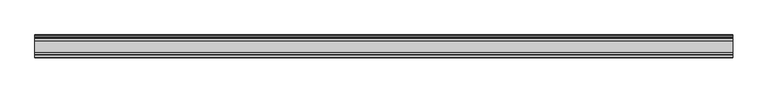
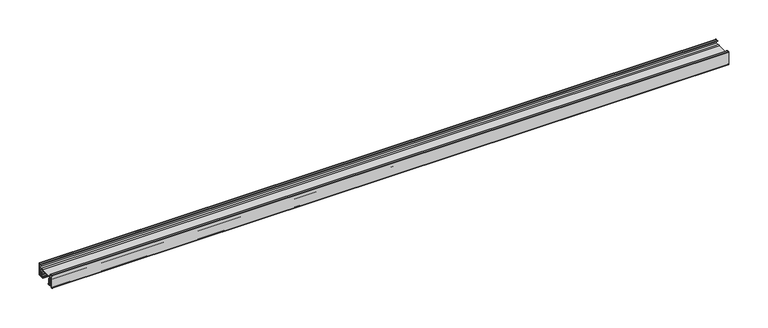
"""IFC4 building model written with IfcOpenShell, lengths in millimetres: light fixture geometry, GENILED_Осветительный шинопровод : Шинопровод однофазный 1000 Белый."""

from ifc_helpers import new_model, si_unit, point, frame, frame_2d, origin, place, context, project, spatial, polyline, circle_curve, trimmed, segment, composite_curve, outline, extrude, source, transform, mapped, element, save


def light_fixture_0315b49b(model_context):
    return source(origin(), model_context, "Body", "SweptSolid", [
        extrude(outline(composite_curve([segment(trimmed(circle_curve(frame_2d((-12.875, -0.825)), 0.325), [point((-12.875, -0.5))], [point((-12.875, -1.15))], False, "CARTESIAN"), True, "CONTINUOUS"), segment(polyline([(-12.875, -1.15), (-15.85, -1.15), (-15.85, -5.8), (-11.3843464, -5.8)]), True, "CONTINUOUS"), segment(trimmed(circle_curve(frame_2d((-9.85, -6.5319708)), 1.7), [point((-11.3843464, -5.8))], [point((-8.3156536, -5.8))], False, "CARTESIAN"), True, "CONTINUOUS"), segment(polyline([(-8.3156536, -5.8), (8.3156536, -5.8)]), True, "CONTINUOUS"), segment(trimmed(circle_curve(frame_2d((9.85, -6.5319708)), 1.7), [point((8.3156536, -5.8))], [point((11.3843464, -5.8))], False, "CARTESIAN"), True, "CONTINUOUS"), segment(polyline([(11.3843464, -5.8), (15.85, -5.8), (15.85, -1.15), (12.875, -1.15)]), True, "CONTINUOUS"), segment(trimmed(circle_curve(frame_2d((12.875, -0.825)), 0.325), [point((12.875, -1.15))], [point((12.875, -0.5))], False, "CARTESIAN"), True, "CONTINUOUS"), segment(polyline([(12.875, -0.5), (15.85, -0.5), (15.85, -0.325)]), True, "CONTINUOUS"), segment(trimmed(circle_curve(frame_2d((16.175, -0.325)), 0.325), [point((15.85, -0.325))], [point((16.5, -0.325))], False, "CARTESIAN"), True, "CONTINUOUS"), segment(polyline([(16.5, -0.325), (16.5, -19.0), (7.6, -19.0), (7.6, -17.525)]), True, "CONTINUOUS"), segment(trimmed(circle_curve(frame_2d((7.925, -17.525)), 0.325), [point((7.6, -17.525))], [point((8.25, -17.525))], False, "CARTESIAN"), True, "CONTINUOUS"), segment(polyline([(8.25, -17.525), (8.25, -18.35), (13.2, -18.35), (13.2, -16.425)]), True, "CONTINUOUS"), segment(trimmed(circle_curve(frame_2d((13.525, -16.425)), 0.325), [point((13.2, -16.425))], [point((13.85, -16.425))], False, "CARTESIAN"), True, "CONTINUOUS"), segment(polyline([(13.85, -16.425), (13.85, -18.35), (15.85, -18.35), (15.85, -6.55), (13.85, -6.55), (13.85, -8.175)]), True, "CONTINUOUS"), segment(trimmed(circle_curve(frame_2d((13.525, -8.175)), 0.325), [point((13.85, -8.175))], [point((13.2, -8.175))], False, "CARTESIAN"), True, "CONTINUOUS"), segment(polyline([(13.2, -8.175), (13.2, -6.55), (-13.2, -6.55), (-13.2, -8.175)]), True, "CONTINUOUS"), segment(trimmed(circle_curve(frame_2d((-13.525, -8.175)), 0.325), [point((-13.2, -8.175))], [point((-13.85, -8.175))], False, "CARTESIAN"), True, "CONTINUOUS"), segment(polyline([(-13.85, -8.175), (-13.85, -6.55), (-15.85, -6.55), (-15.85, -18.35), (-13.85, -18.35), (-13.85, -16.425)]), True, "CONTINUOUS"), segment(trimmed(circle_curve(frame_2d((-13.525, -16.425)), 0.325), [point((-13.85, -16.425))], [point((-13.2, -16.425))], False, "CARTESIAN"), True, "CONTINUOUS"), segment(polyline([(-13.2, -16.425), (-13.2, -18.35), (-8.0, -18.35), (-8.0, -17.525)]), True, "CONTINUOUS"), segment(trimmed(circle_curve(frame_2d((-7.675, -17.525)), 0.325), [point((-8.0, -17.525))], [point((-7.35, -17.525))], False, "CARTESIAN"), True, "CONTINUOUS"), segment(polyline([(-7.35, -17.525), (-7.35, -19.0), (-14.0, -19.0), (-14.0, -20.2), (-15.5, -20.2)]), True, "CONTINUOUS"), segment(trimmed(circle_curve(frame_2d((-15.5, -19.2)), 1.0), [point((-15.5, -20.2))], [point((-16.5, -19.2))], False, "CARTESIAN"), True, "CONTINUOUS"), segment(polyline([(-16.5, -19.2), (-16.5, -0.325)]), True, "CONTINUOUS"), segment(trimmed(circle_curve(frame_2d((-16.175, -0.325)), 0.325), [point((-16.5, -0.325))], [point((-15.85, -0.325))], False, "CARTESIAN"), True, "CONTINUOUS"), segment(polyline([(-15.85, -0.325), (-15.85, -0.5), (-12.875, -0.5)]), True, "CONTINUOUS")], self_intersect=False)), frame((0.0, 0.0, 0.0), z_axis=(1.0, 0.0, 0.0), x_axis=(0.0, 1.0, 0.0)), (0.0, 0.0, 1.0), 1000.0),
        extrude(outline(polyline([(1000.0, 9.7301861), (1000.0, 8.9301861), (0.0, 8.9301861), (0.0, 9.7301861), (1000.0, 9.7301861)])), frame((0.0, 0.0, -14.1890619), z_axis=(0.0, 0.0, 1.0), x_axis=(1.0, 0.0, 0.0)), (0.0, 0.0, 1.0), 3.2),
        extrude(outline(polyline([(1000.0, -8.9301861), (1000.0, -9.7301861), (0.0, -9.7301861), (0.0, -8.9301861), (1000.0, -8.9301861)])), frame((0.0, 0.0, -14.1890619), z_axis=(0.0, 0.0, 1.0), x_axis=(1.0, 0.0, 0.0)), (0.0, 0.0, 1.0), 3.2),
        extrude(outline(polyline([(7.8801861, -9.6390619), (14.6301861, -9.6390619), (14.6301861, -7.1890619), (15.8301861, -7.1890619), (15.8301861, -10.9390619), (11.2801861, -10.9390619), (11.2801861, -14.2390619), (15.8301861, -14.2390619), (15.8301861, -17.9890619), (14.6301861, -17.9890619), (14.6301861, -15.5390619), (7.8801861, -15.5390619), (7.8801861, -13.4390619), (8.9801861, -13.4390619), (8.9801861, -14.3890619), (9.9801861, -14.3890619), (9.9801861, -10.7890619), (8.9801861, -10.7890619), (8.9801861, -11.7390619), (7.8801861, -11.7390619), (7.8801861, -9.6390619)])), frame((0.0, 0.0, 0.0), z_axis=(1.0, 0.0, 0.0), x_axis=(0.0, 1.0, 0.0)), (0.0, 0.0, 1.0), 1000.0),
        extrude(outline(polyline([(-7.6301861, -9.6390619), (-7.6301861, -11.7390619), (-8.7301861, -11.7390619), (-8.7301861, -10.7890619), (-9.7301861, -10.7890619), (-9.7301861, -14.3890619), (-8.7301861, -14.3890619), (-8.7301861, -13.4390619), (-7.6301861, -13.4390619), (-7.6301861, -15.5390619), (-14.6301861, -15.5390619), (-14.6301861, -17.9890619), (-15.8301861, -17.9890619), (-15.8301861, -14.2390619), (-11.0301861, -14.2390619), (-11.0301861, -10.9390619), (-15.8301861, -10.9390619), (-15.8301861, -7.1890619), (-14.6301861, -7.1890619), (-14.6301861, -9.6390619), (-7.6301861, -9.6390619)])), frame((0.0, 0.0, 0.0), z_axis=(1.0, 0.0, 0.0), x_axis=(0.0, 1.0, 0.0)), (0.0, 0.0, 1.0), 1000.0),
    ])


if __name__ == "__main__":
    model = new_model("IFC4")
    model_context = context("Model", 3, world=origin())
    ifc_project = project(units=[si_unit("LENGTHUNIT", "METRE", prefix="MILLI")], contexts=[model_context])
    site = spatial("IfcSite", under=ifc_project)
    building = spatial("IfcBuilding", under=site)
    placement = place(None, origin())
    light_fixture_shape = light_fixture_0315b49b(model_context)
    element("IfcLightFixture", 1, ObjectType="GENILED_Осветительный шинопровод : Шинопровод однофазный 1000 Белый", at=placement, inside=building, context=model_context, shape_type="MappedRepresentation", body=[
        mapped(light_fixture_shape, transform((0.0, 0.0, 0.0), x_axis=(1.0, 0.0, 0.0), y_axis=(0.0, 1.0, 0.0), z_axis=(0.0, 0.0, 1.0))),
    ])
    save(model, "model.ifc")
